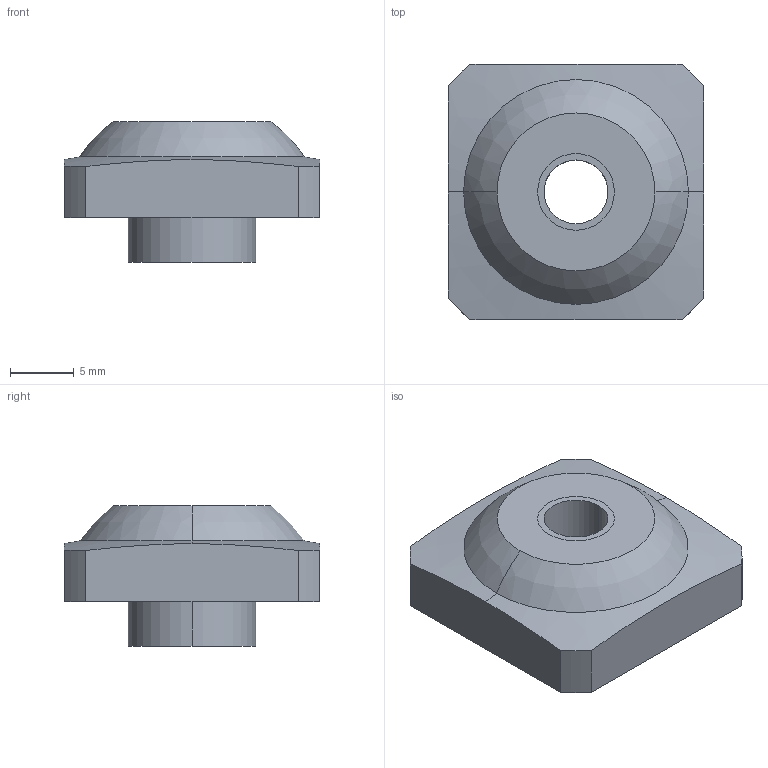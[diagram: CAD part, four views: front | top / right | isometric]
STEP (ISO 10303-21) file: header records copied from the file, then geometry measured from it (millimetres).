
FILE_DESCRIPTION((''),'2;1');
FILE_NAME('DAQ0610','2002-12-27T',('Lipro doo'),('Lipro d.o.o.'),'PRO/ENGINEER BY PARAMETRIC TECHNOLOGY CORPORATION, 2001150','PRO/ENGINEER BY PARAMETRIC TECHNOLOGY CORPORATION, 2001150','');
FILE_SCHEMA(('CONFIG_CONTROL_DESIGN'));
Length unit declared in the file: millimetre
Products named in the file (1): DAQ0610
Bounding box: 20 x 20 x 11 mm (x, y, z)
Volume: 2398.1 mm3; surface area: 1620.6 mm2
Topology: 1 solids, 2 shells, 23 faces, 56 edges, 36 vertices
Faces by surface type: cylinder 10, plane 7, cone 4, sphere 2
Entity records: 770 total; most frequent: CARTESIAN_POINT 164, DIRECTION 126, ORIENTED_EDGE 108, EDGE_CURVE 56, AXIS2_PLACEMENT_3D 52, VERTEX_POINT 36, CIRCLE 28, EDGE_LOOP 26
